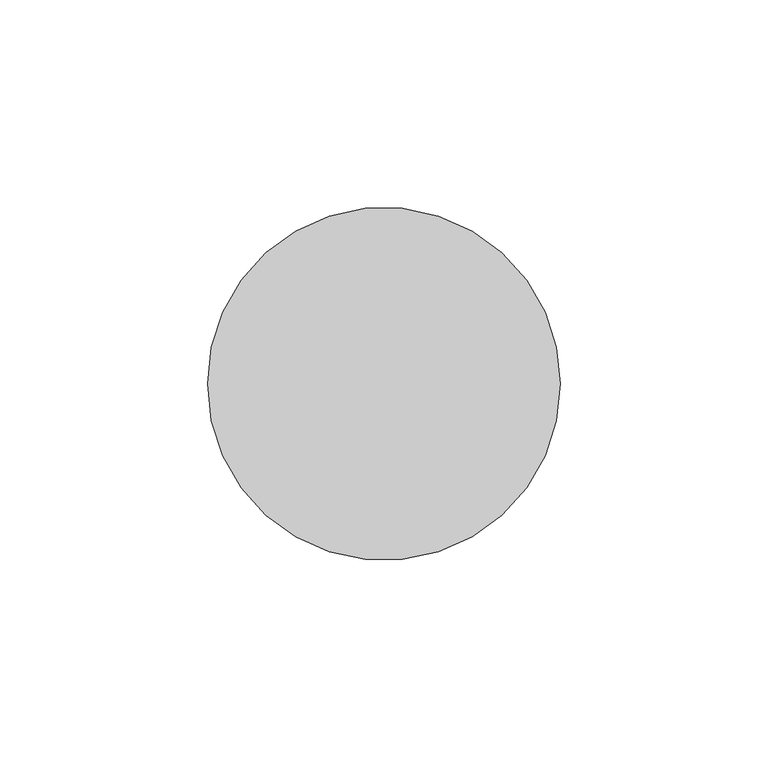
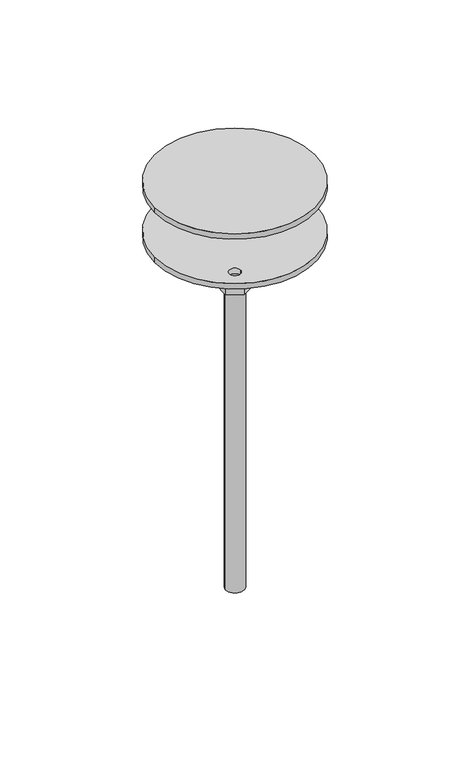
"""IFC4 building model written with IfcOpenShell, lengths in millimetres: proxy geometry, КНС_ТочкаЗаземления_DKC : NE1003_Нержавеющая сталь_М10."""

from ifc_helpers import new_model, si_unit, point, frame, origin, origin_with_axes, origin_2d, place, context, project, spatial, polyline, circle_curve, trimmed, segment, composite_curve, outline, extrude, source, transform, mapped, element, save
from ifc_brep_helpers import plane_surface, cylinder_surface, revolved_surface, advanced_brep


def security_devices_3e84176e(model_context):
    return source(origin(), model_context, "Body", "SolidModel", [
        advanced_brep(
        [(0.0, 8.6345249, -30.5), (7.4777179, 4.3172624, -30.5), (7.4777179, -4.3172624, -30.5), (0.0, -8.6345249, -30.5), (-7.4777179, -4.3172624, -30.5), (-7.4777179, 4.3172624, -30.5), (-5.0, 0.0, -30.5), (5.0, 0.0, -30.5), (-7.4777179, 4.3172624, -3.0), (0.0, 8.6345249, -3.0), (-7.4777179, -4.3172624, -3.0), (0.0, -8.6345249, -3.0), (7.4777179, -4.3172624, -3.0), (7.4777179, 4.3172624, -3.0), (-42.5, 0.0, -3.0), (42.5, 0.0, -3.0), (30.0, 0.0, -3.0), (36.0, 0.0, -3.0), (-19.5, -28.5788383, -3.0), (-13.5, -28.5788383, -3.0), (-19.5, 28.5788383, -3.0), (-13.5, 28.5788383, -3.0), (-42.5, 0.0, 0.0), (42.5, 0.0, 0.0), (30.0, 0.0, 0.0), (36.0, 0.0, 0.0), (-19.5, -28.5788383, 0.0), (-13.5, -28.5788383, 0.0), (-19.5, 28.5788383, 0.0), (-13.5, 28.5788383, 0.0), (-5.0, 0.0, -200.0), (5.0, 0.0, -200.0)],
        [
            (0, 1),
            (1, 2),
            (2, 3),
            (3, 4),
            (4, 5),
            (5, 0),
            (6, 7, circle_curve(frame((0.0, 0.0, -30.5), z_axis=(0.0, 0.0, 1.0), x_axis=(1.0, 0.0, 0.0)), 5.0)),
            (7, 6, circle_curve(frame((0.0, 0.0, -30.5), z_axis=(0.0, 0.0, 1.0), x_axis=(1.0, 0.0, 0.0)), 5.0)),
            (5, 8),
            (8, 9),
            (9, 0),
            (4, 10),
            (10, 8),
            (3, 11),
            (11, 10),
            (2, 12),
            (12, 11),
            (1, 13),
            (13, 12),
            (9, 13),
            (14, 15, circle_curve(frame((0.0, 0.0, -3.0), z_axis=(0.0, 0.0, -1.0), x_axis=(1.0, 0.0, 0.0)), 42.5)),
            (15, 14, circle_curve(frame((0.0, 0.0, -3.0), z_axis=(0.0, 0.0, -1.0), x_axis=(1.0, 0.0, 0.0)), 42.5)),
            (16, 17, circle_curve(frame((33.0, 0.0, -3.0), z_axis=(0.0, 0.0, 1.0), x_axis=(1.0, 0.0, 0.0)), 3.0)),
            (17, 16, circle_curve(frame((33.0, 0.0, -3.0), z_axis=(0.0, 0.0, 1.0), x_axis=(1.0, 0.0, 0.0)), 3.0)),
            (18, 19, circle_curve(frame((-16.5, -28.5788383, -3.0), z_axis=(0.0, 0.0, 1.0), x_axis=(1.0, 0.0, 0.0)), 3.0)),
            (19, 18, circle_curve(frame((-16.5, -28.5788383, -3.0), z_axis=(0.0, 0.0, 1.0), x_axis=(1.0, 0.0, 0.0)), 3.0)),
            (20, 21, circle_curve(frame((-16.5, 28.5788383, -3.0), z_axis=(0.0, 0.0, 1.0), x_axis=(1.0, 0.0, 0.0)), 3.0)),
            (21, 20, circle_curve(frame((-16.5, 28.5788383, -3.0), z_axis=(0.0, 0.0, 1.0), x_axis=(1.0, 0.0, 0.0)), 3.0)),
            (22, 23, circle_curve(origin_with_axes(), 42.5)),
            (23, 22, circle_curve(origin_with_axes(), 42.5)),
            (24, 25, circle_curve(frame((33.0, 0.0, 0.0), z_axis=(0.0, 0.0, -1.0), x_axis=(1.0, 0.0, 0.0)), 3.0)),
            (25, 24, circle_curve(frame((33.0, 0.0, 0.0), z_axis=(0.0, 0.0, -1.0), x_axis=(1.0, 0.0, 0.0)), 3.0)),
            (26, 27, circle_curve(frame((-16.5, -28.5788383, 0.0), z_axis=(0.0, 0.0, -1.0), x_axis=(1.0, 0.0, 0.0)), 3.0)),
            (27, 26, circle_curve(frame((-16.5, -28.5788383, 0.0), z_axis=(0.0, 0.0, -1.0), x_axis=(1.0, 0.0, 0.0)), 3.0)),
            (28, 29, circle_curve(frame((-16.5, 28.5788383, 0.0), z_axis=(0.0, 0.0, -1.0), x_axis=(1.0, 0.0, 0.0)), 3.0)),
            (29, 28, circle_curve(frame((-16.5, 28.5788383, 0.0), z_axis=(0.0, 0.0, -1.0), x_axis=(1.0, 0.0, 0.0)), 3.0)),
            (15, 23),
            (22, 14),
            (17, 25),
            (24, 16),
            (19, 27),
            (26, 18),
            (21, 29),
            (28, 20),
            (30, 31, circle_curve(frame((0.0, 0.0, -200.0), z_axis=(0.0, 0.0, -1.0), x_axis=(1.0, 0.0, 0.0)), 5.0)),
            (31, 30, circle_curve(frame((0.0, 0.0, -200.0), z_axis=(0.0, 0.0, -1.0), x_axis=(1.0, 0.0, 0.0)), 5.0)),
            (31, 7),
            (6, 30),
        ],
        [
            plane_surface(frame((0.0, 8.6345249, -30.5), z_axis=(0.0, 0.0, -1.0), x_axis=(0.8660254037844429, 0.4999999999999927, 0.0))),
            plane_surface(frame((0.0, 8.6345249, -3.0), z_axis=(-0.4999999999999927, 0.8660254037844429, 0.0), x_axis=(0.0, 0.0, -1.0))),
            plane_surface(frame((-7.4777179, 4.3172624, -3.0), z_axis=(-1.0, 0.0, 0.0), x_axis=(0.0, 0.0, -1.0))),
            plane_surface(frame((-7.4777179, -4.3172624, -3.0), z_axis=(-0.5000000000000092, -0.8660254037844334, 0.0), x_axis=(0.0, 0.0, -1.0))),
            plane_surface(frame((0.0, -8.6345249, -3.0), z_axis=(0.49999999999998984, -0.8660254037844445, 0.0), x_axis=(0.0, 0.0, -1.0))),
            plane_surface(frame((7.4777179, -4.3172624, -3.0), z_axis=(1.0, 0.0, 0.0), x_axis=(0.0, 0.0, -1.0))),
            plane_surface(frame((7.4777179, 4.3172624, -3.0), z_axis=(0.5000000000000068, 0.8660254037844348, 0.0), x_axis=(0.0, 0.0, -1.0))),
            plane_surface(frame((42.5, 0.0, -3.0), z_axis=(0.0, 0.0, -1.0), x_axis=(0.0, -1.0, 0.0))),
            plane_surface(frame((42.5, 0.0, 0.0), z_axis=(0.0, 0.0, 1.0), x_axis=(0.0, 1.0, 0.0))),
            cylinder_surface(frame((0.0, 0.0, -3.0), z_axis=(0.0, 0.0, 1.0), x_axis=(1.0, 0.0, 0.0)), 42.5),
            revolved_surface(polyline([(36.0, 0.0, -3.0), (36.0, 0.0, 0.0)]), (33.0, 0.0, 0.0), (0.0, 0.0, -1.0)),
            revolved_surface(polyline([(-13.5, -28.5788383, -3.0), (-13.5, -28.5788383, 0.0)]), (-16.5, -28.5788383, 0.0), (0.0, 0.0, -1.0)),
            revolved_surface(polyline([(-13.5, 28.5788383, -3.0), (-13.5, 28.5788383, 0.0)]), (-16.5, 28.5788383, 0.0), (0.0, 0.0, -1.0)),
            plane_surface(frame((5.0, 0.0, -200.0), z_axis=(0.0, 0.0, -1.0), x_axis=(0.0, -1.0, 0.0))),
            cylinder_surface(frame((0.0, 0.0, -200.0), z_axis=(0.0, 0.0, 1.0), x_axis=(1.0, 0.0, 0.0)), 5.0),
        ],
        [
            (0, [[1, 2, 3, 4, 5, 6], [7, 8]]),
            (1, [[-6, 9, 10, 11]]),
            (2, [[-5, 12, 13, -9]]),
            (3, [[-4, 14, 15, -12]]),
            (4, [[-3, 16, 17, -14]]),
            (5, [[-2, 18, 19, -16]]),
            (6, [[-1, -11, 20, -18]]),
            (7, [[21, 22], [-10, -13, -15, -17, -19, -20], [23, 24], [25, 26], [27, 28]]),
            (8, [[29, 30], [31, 32], [33, 34], [35, 36]]),
            (9, [[-22, 37, -29, 38]]),
            (9, [[-21, -38, -30, -37]]),
            (10, [[-24, 39, -31, 40]]),
            (10, [[-23, -40, -32, -39]]),
            (11, [[-26, 41, -33, 42]]),
            (11, [[-25, -42, -34, -41]]),
            (12, [[-28, 43, -35, 44]]),
            (12, [[-27, -44, -36, -43]]),
            (13, [[45, 46]]),
            (14, [[-46, 47, -7, 48]]),
            (14, [[-45, -48, -8, -47]]),
        ],
    ),
        extrude(outline(composite_curve([segment(trimmed(circle_curve(origin_2d(), 42.5), [point((-42.5, 0.0))], [point((42.5, 0.0))], False, "CARTESIAN"), True, "CONTINUOUS"), segment(trimmed(circle_curve(origin_2d(), 42.5), [point((42.5, 0.0))], [point((-42.5, 0.0))], False, "CARTESIAN"), True, "CONTINUOUS")], self_intersect=False)), frame((0.0, 0.0, 25.0), z_axis=(0.0, 0.0, 1.0), x_axis=(1.0, 0.0, 0.0)), (0.0, 0.0, 1.0), 3.0),
    ])


if __name__ == "__main__":
    model = new_model("IFC4")
    model_context = context("Model", 3, world=origin())
    ifc_project = project(units=[si_unit("LENGTHUNIT", "METRE", prefix="MILLI")], contexts=[model_context])
    site = spatial("IfcSite", under=ifc_project)
    building = spatial("IfcBuilding", under=site)
    placement = place(None, origin())
    security_devices_shape = security_devices_3e84176e(model_context)
    element("IfcBuildingElementProxy", 1, Name="КНС_ТочкаЗаземления_DKC : NE1003_Нержавеющая сталь_М10", ObjectType="КНС_ТочкаЗаземления_DKC : NE1003_Нержавеющая сталь_М10", at=placement, inside=building, context=model_context, shape_type="MappedRepresentation", body=[
        mapped(security_devices_shape, transform((0.0, 0.0, 0.0), x_axis=(1.0, 0.0, 0.0), y_axis=(0.0, 1.0, 0.0), z_axis=(0.0, 0.0, 1.0))),
    ])
    save(model, "model.ifc")
